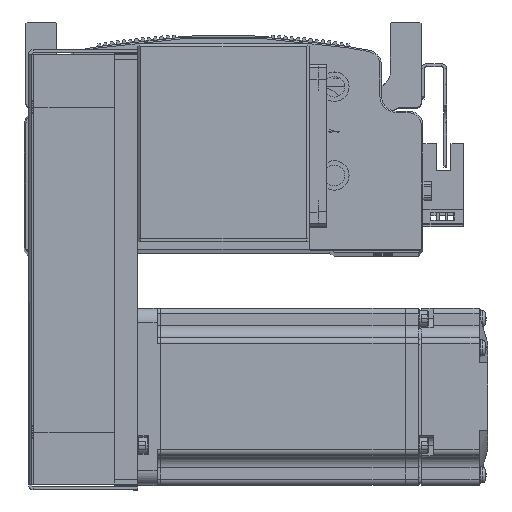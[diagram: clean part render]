
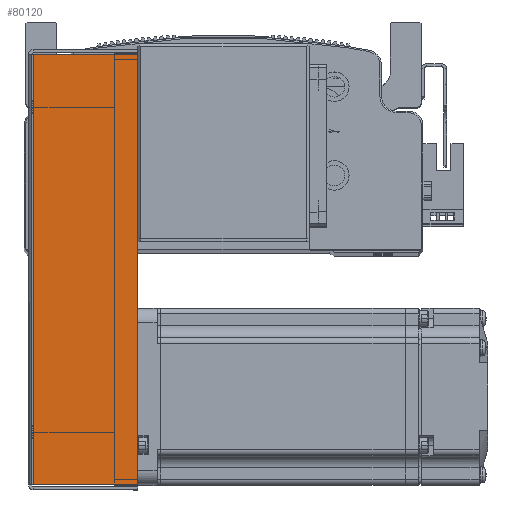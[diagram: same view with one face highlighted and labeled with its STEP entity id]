
A CAD part, top view. The second image highlights one B-rep face of the part: STEP entity #80120.
In plain terms, the highlighted planar face has unit normal (0, 0, 1) as drawn and (0, 0, -1) by its records, which use the part's own axes.
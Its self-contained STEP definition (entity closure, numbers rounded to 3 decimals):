
#3691 = FACE_OUTER_BOUND ( 'NONE', #42466, .T. ) ;
#15415 = EDGE_CURVE ( 'NONE', #48149, #48192, #20623, .T. ) ;
#15462 = EDGE_CURVE ( 'NONE', #48198, #48205, #20692, .T. ) ;
#15521 = EDGE_CURVE ( 'NONE', #48198, #48149, #20706, .T. ) ;
#15659 = EDGE_CURVE ( 'NONE', #48205, #48192, #18811, .T. ) ;
#17105 = PLANE ( 'NONE',  #25396 ) ;
#17106 = DIRECTION ( 'NONE',  ( 0., 0., 1. ) ) ;
#17134 = CARTESIAN_POINT ( 'NONE',  ( 0., 0., -34.5 ) ) ;
#17203 = DIRECTION ( 'NONE',  ( 0., -1., 0. ) ) ;
#18811 = LINE ( 'NONE', #52335, #18815 ) ;
#18815 = VECTOR ( 'NONE', #52380, 1000. ) ;
#20623 = LINE ( 'NONE', #51745, #20629 ) ;
#20629 = VECTOR ( 'NONE', #51757, 1000. ) ;
#20665 = VECTOR ( 'NONE', #52039, 1000. ) ;
#20692 = LINE ( 'NONE', #51817, #20734 ) ;
#20706 = LINE ( 'NONE', #52064, #20665 ) ;
#20734 = VECTOR ( 'NONE', #51927, 1000. ) ;
#25396 = AXIS2_PLACEMENT_3D ( 'NONE', #17134, #17106, #17203 ) ;
#32934 = CARTESIAN_POINT ( 'NONE',  ( 72.793, 0.737, -34.5 ) ) ;
#32976 = CARTESIAN_POINT ( 'NONE',  ( -72.793, 0.737, -34.5 ) ) ;
#32983 = CARTESIAN_POINT ( 'NONE',  ( -72.793, 36., -34.5 ) ) ;
#33032 = CARTESIAN_POINT ( 'NONE',  ( 72.793, 36., -34.5 ) ) ;
#42466 = EDGE_LOOP ( 'NONE', ( #48738, #48776, #48751, #48778 ) ) ;
#48149 = VERTEX_POINT ( 'NONE', #32934 ) ;
#48192 = VERTEX_POINT ( 'NONE', #33032 ) ;
#48198 = VERTEX_POINT ( 'NONE', #32976 ) ;
#48205 = VERTEX_POINT ( 'NONE', #32983 ) ;
#48738 = ORIENTED_EDGE ( 'NONE', *, *, #15521, .F. ) ;
#48751 = ORIENTED_EDGE ( 'NONE', *, *, #15659, .T. ) ;
#48776 = ORIENTED_EDGE ( 'NONE', *, *, #15462, .T. ) ;
#48778 = ORIENTED_EDGE ( 'NONE', *, *, #15415, .F. ) ;
#51745 = CARTESIAN_POINT ( 'NONE',  ( 72.793, 0., -34.5 ) ) ;
#51757 = DIRECTION ( 'NONE',  ( 0., 1., 0. ) ) ;
#51817 = CARTESIAN_POINT ( 'NONE',  ( -72.793, 0., -34.5 ) ) ;
#51927 = DIRECTION ( 'NONE',  ( 0., 1., 0. ) ) ;
#52039 = DIRECTION ( 'NONE',  ( 1., 0., 0. ) ) ;
#52064 = CARTESIAN_POINT ( 'NONE',  ( 74.5, 0.737, -34.5 ) ) ;
#52335 = CARTESIAN_POINT ( 'NONE',  ( 0., 36., -34.5 ) ) ;
#52380 = DIRECTION ( 'NONE',  ( 1., 0., 0. ) ) ;
#80120 = ADVANCED_FACE ( 'NONE', ( #3691 ), #17105, .F. ) ;
